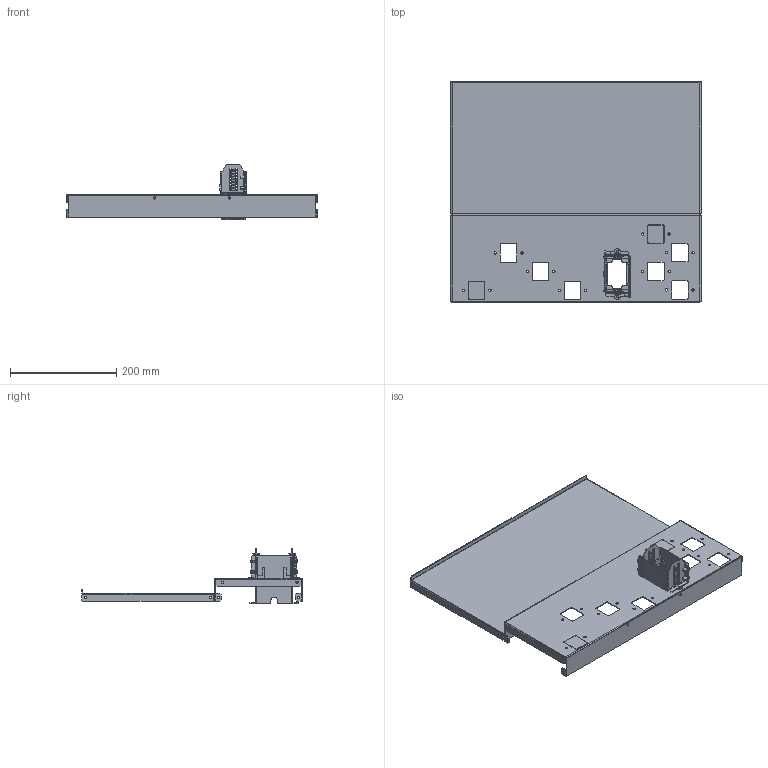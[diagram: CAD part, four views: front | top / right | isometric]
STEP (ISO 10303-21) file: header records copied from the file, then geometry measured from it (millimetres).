
FILE_DESCRIPTION(('CAx-IF Rec.Pracs.---Model Styling and Organization---1.2---2011-12-15','CAx-IF Rec.Pracs.---Geometric and Assembly Validation Properties---4.1---2014-06-16','CAx-IF Rec.Pracs.---PMI Polyline Presentation---2.0---2013-05-24'),'2;1');
FILE_NAME('R5M2W9M1BR22.stp','2021-05-05T12:37:30+03:00',(''),(''),'STEP Interface 4.4 by CT CoreTechnologie','3D_Evolution4.4 by CT CoreTechnologie','');
FILE_SCHEMA(('AUTOMOTIVE_DESIGN { 1 0 10303 214 1 1 1 1 }'));
Length unit declared in the file: millimetre
Products named in the file (9): R5M2W9M1BR22; RB.1765.00.00.0 ÑÁ; RB.1570.00.00.0; RB.1569.00.00.1_-00; RB.1571.00.00.0_In prestressed condition - 40 mm; M5x8-DIN7500C_stright; RB.1506.00.00.0_-03; RB.1507.00.00.0_-03; RB.1567.00.00.0_-00
Assembly tree (14 placements, depth 3):
  R5M2W9M1BR22
    RB.1765.00.00.0 ÑÁ
      RB.1570.00.00.0  x2
      RB.1569.00.00.1_-00  x2
      RB.1571.00.00.0_In prestressed condition - 40 mm  x2
      M5x8-DIN7500C_stright  x4
    RB.1506.00.00.0_-03
    RB.1507.00.00.0_-03
    RB.1567.00.00.0_-00
Bounding box: 470 x 414.2 x 103.8 mm (x, y, z)
Surface area: 558490.1 mm2 (no closed solid volume)
Topology: 0 solids, 22 shells, 760 faces, 2011 edges, 1295 vertices
Faces by surface type: plane 494, cylinder 236, bspline 30
Entity records: 19917 total; most frequent: CARTESIAN_POINT 4713, DIRECTION 3043, ORIENTED_EDGE 3042, EDGE_CURVE 1521, VECTOR 1109, LINE 1109, VERTEX_POINT 977, AXIS2_PLACEMENT_3D 967
